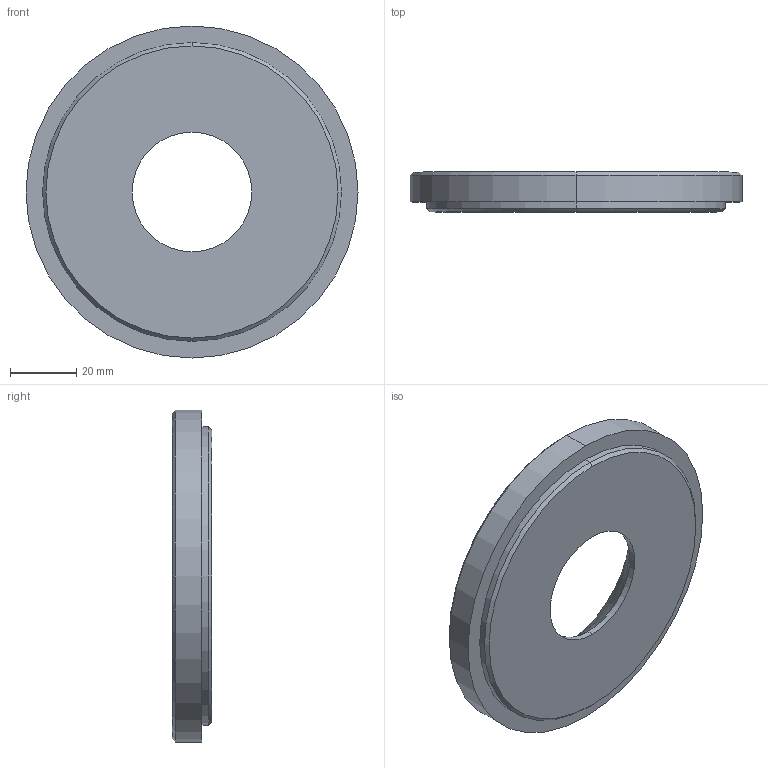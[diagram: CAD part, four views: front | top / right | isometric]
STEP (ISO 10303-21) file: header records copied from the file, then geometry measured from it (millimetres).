
FILE_DESCRIPTION (( 'STEP AP214' ), '1' );
FILE_NAME ('BRLRS-100x36x12.STEP', '2020-02-05T09:32:45', ( 'August' ), ( '' ), 'SwSTEP 2.0', 'SolidWorks 2018', '' );
FILE_SCHEMA (( 'AUTOMOTIVE_DESIGN' ));
Length unit declared in the file: millimetre
Products named in the file (1): BRLRS-100x36x12
Bounding box: 100 x 12 x 100 mm (x, y, z)
Volume: 70558.1 mm3; surface area: 17820.4 mm2
Topology: 1 solids, 1 shells, 15 faces, 30 edges, 18 vertices
Faces by surface type: cone 6, cylinder 6, plane 3
Entity records: 432 total; most frequent: DIRECTION 80, CARTESIAN_POINT 64, ORIENTED_EDGE 60, AXIS2_PLACEMENT_3D 34, EDGE_CURVE 30, CIRCLE 18, EDGE_LOOP 18, VERTEX_POINT 18
